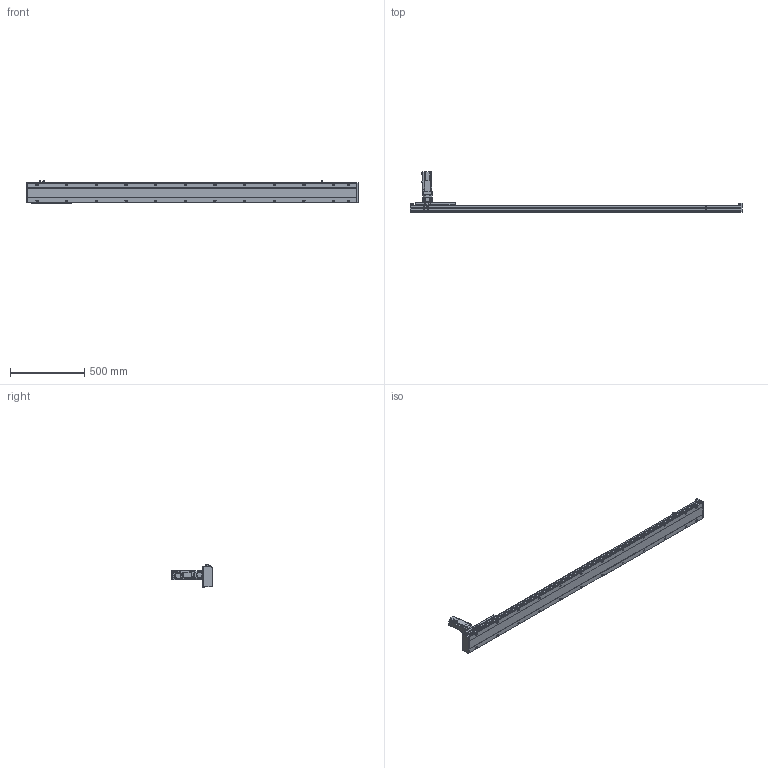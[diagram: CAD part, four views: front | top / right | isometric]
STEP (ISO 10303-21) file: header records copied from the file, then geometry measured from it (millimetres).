
FILE_DESCRIPTION(/* description */ ('STEP AP203'),/* implementation_level */ '2;1');
FILE_NAME(/* name */ 'SHS14A-L10-S1900-BC-T40-C1-N(0)',/* time_stamp */ '2023-03-27T08:28:34+02:00',/* author */ ('License CC BY-ND 4.0'),/* organization */ ('CADENAS'),/* preprocessor_version */ 'ST-DEVELOPER v19.3',/* originating_system */ 'PARTsolutions',/* authorisation */ ' ');
FILE_SCHEMA (('CONFIG_CONTROL_DESIGN'));
Length unit declared in the file: millimetre
Products named in the file (7): SHS14A-L10-S1900-BC-T40-C1-N(0); PSC140-sensor; T40-p1; SHS14AT_body3; SHS14A-1900_slider; SHS14A_body2; SHS14A-S1900-BC-T40-C1(0)_body
Assembly tree (13 placements, depth 2):
  SHS14A-L10-S1900-BC-T40-C1-N(0)
    PSC140-sensor  x3
    T40-p1
    SHS14AT_body3
    SHS14A-1900_slider
    SHS14A_body2  x6
    SHS14A-S1900-BC-T40-C1(0)_body
Bounding box: 2240 x 272.7 x 150.9 mm (x, y, z)
Volume: 9605877.7 mm3; surface area: 1508642.2 mm2
Topology: 13 solids, 13 shells, 2092 faces, 5343 edges, 3494 vertices
Faces by surface type: plane 1467, cylinder 539, cone 76, torus 10
Full cylindrical faces by diameter (mm): 2.8 x3, 4.134 x24, 4.2 x7, 4.4 x24, 4.5 x24, 4.6 x3, 4.8 x24, 4.917 x32, 5 x8, 5.5 x11, 5.94 x6, 6 x2, 6.6 x24, 8 x24, 8.49 x4, 8.5 x4, 9 x4, 10.5 x24, 13.964 x1, 14 x1, 14.182 x1, 16 x1, 18.974 x1, 19.274 x1, 19.774 x1, 19.8 x1, 34.442 x1, 42 x1, 50 x5
Entity records: 33354 total; most frequent: CARTESIAN_POINT 5922, DIRECTION 5639, ORIENTED_EDGE 5202, EDGE_CURVE 2601, AXIS2_PLACEMENT_3D 1953, VERTEX_POINT 1852, LINE 1733, VECTOR 1733
